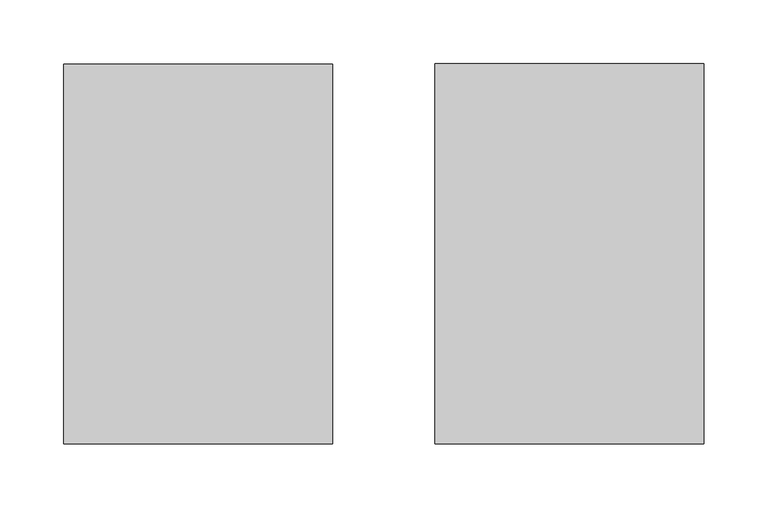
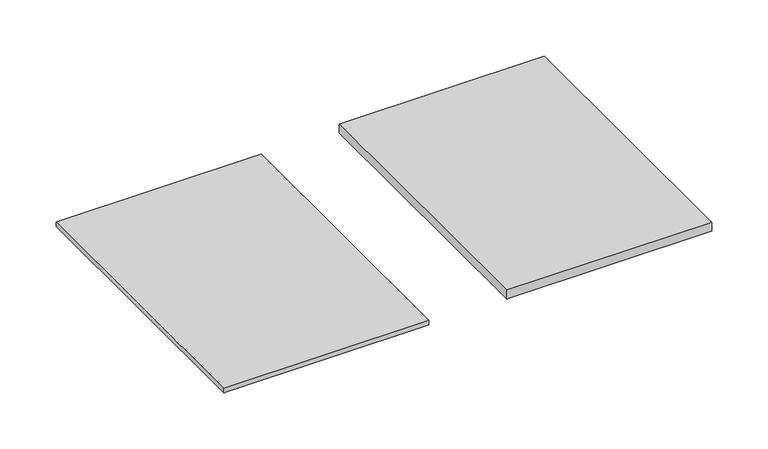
"""IFC4 building model written with IfcOpenShell, lengths in millimetres: geographic element geometry, Enscape AssetDefinition - Leaflets 001 : Enscape AssetDefinition - Leaflets 001."""

from ifc_helpers import new_model, si_unit, origin, place, context, project, spatial, triangles, source, transform, mapped, element, save


def geographic_element_586f9479(model_context):
    return source(origin(), model_context, "Body", "Tessellation", [
        triangles([(-39.9999976, 148.4999928, 4.8079999), (-250.0000019, -148.4999928, 4.8079999), (-39.9999976, -148.4999928, 4.8079999), (-250.0000019, 148.4999928, 4.8079999), (-39.9999976, 148.4999928, 0.0), (-250.0000019, -148.4999928, 0.0), (-250.0000019, 148.4999928, 0.0), (-39.9999976, -148.4999928, 0.0), (39.9999976, -148.4999928, 9.5929998), (39.9999976, -148.4999928, 0.0), (250.0000019, -148.4999928, 9.5929998), (250.0000019, 148.4999928, 9.5929998), (39.9999976, 148.4999928, 9.5929998), (39.9999976, 148.4999928, 0.0), (250.0000019, 148.4999928, 0.0), (250.0000019, -148.4999928, 0.0)], [[10, 15, 16], [10, 14, 15], [13, 15, 14], [13, 12, 15], [12, 16, 15], [12, 11, 16], [11, 10, 16], [11, 9, 10], [9, 14, 10], [9, 13, 14], [9, 12, 13], [9, 11, 12], [6, 5, 8], [6, 7, 5], [4, 5, 7], [4, 1, 5], [1, 8, 5], [1, 3, 8], [3, 6, 8], [3, 2, 6], [2, 7, 6], [2, 4, 7], [2, 1, 4], [2, 3, 1]]),
    ])


if __name__ == "__main__":
    model = new_model("IFC4")
    model_context = context("Model", 3, world=origin())
    ifc_project = project(units=[si_unit("LENGTHUNIT", "METRE", prefix="MILLI")], contexts=[model_context])
    site = spatial("IfcSite", under=ifc_project)
    building = spatial("IfcBuilding", under=site)
    placement = place(None, origin())
    geographic_element_shape = geographic_element_586f9479(model_context)
    element("IfcGeographicElement", 1, ObjectType="Enscape AssetDefinition - Leaflets 001 : Enscape AssetDefinition - Leaflets 001", at=placement, inside=building, context=model_context, shape_type="MappedRepresentation", body=[
        mapped(geographic_element_shape, transform((0.0, 0.0, 0.0), x_axis=(1.0, 0.0, 0.0), y_axis=(0.0, 1.0, 0.0), z_axis=(0.0, 0.0, 1.0))),
    ])
    save(model, "model.ifc")
